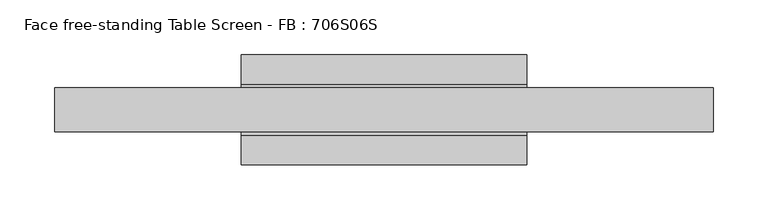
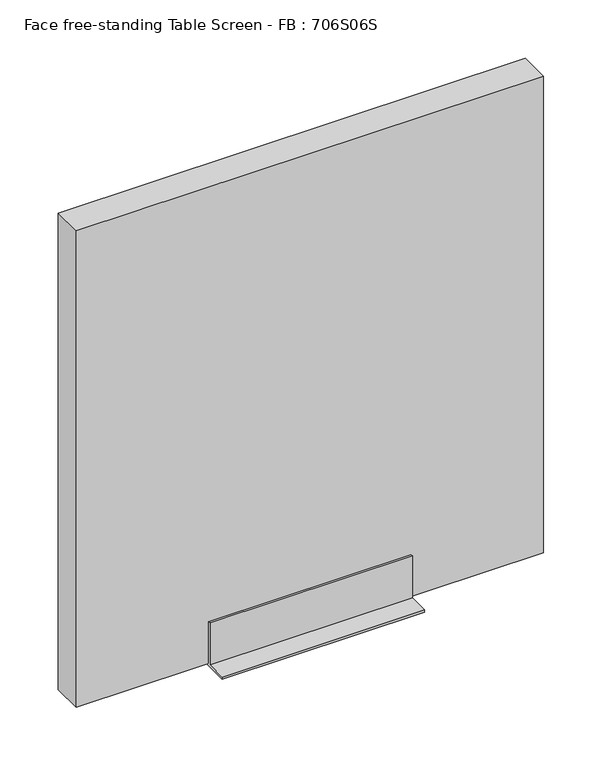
"""IFC4 building model written with IfcOpenShell, lengths in millimetres: furniture geometry, Face free-standing Table Screen - FB : 706S06S."""

from ifc_helpers import new_model, si_unit, frame, origin, place, context, project, spatial, polyline, outline, extrude, source, transform, mapped, element, save


def face_free_standing_table_screen_fb_706s06s_526e518a(model_context):
    return source(origin(), model_context, "Body", "SweptSolid", [
        extrude(outline(polyline([(-50.0, 3.0), (-22.999995, 3.0), (-23.0, 60.0), (-20.0, 60.0), (-20.0, 3.0), (20.0, 3.0), (20.0, 60.0), (23.0, 60.0), (22.999995, 3.0), (50.0, 3.0), (50.0, 0.0), (-50.0, 0.0), (-50.0, 3.0)])), frame((-130.0, 0.0, 0.0), z_axis=(1.0, 0.0, 0.0), x_axis=(0.0, 1.0, 0.0)), (0.0, 0.0, 1.0), 260.0),
        extrude(outline(polyline([(300.0, -20.0), (-300.0, -20.0), (-300.0, 20.0), (300.0, 20.0), (300.0, -20.0)])), frame((0.0, 0.0, 3.0), z_axis=(0.0, 0.0, 1.0), x_axis=(1.0, 0.0, 0.0)), (0.0, 0.0, 1.0), 647.0),
    ])


if __name__ == "__main__":
    model = new_model("IFC4")
    model_context = context("Model", 3, world=origin())
    ifc_project = project(units=[si_unit("LENGTHUNIT", "METRE", prefix="MILLI")], contexts=[model_context])
    site = spatial("IfcSite", under=ifc_project)
    building = spatial("IfcBuilding", under=site)
    placement = place(None, origin())
    face_free_standing_table_screen_fb_706s06s_shape = face_free_standing_table_screen_fb_706s06s_526e518a(model_context)
    element("IfcFurniture", 1, ObjectType="Face free-standing Table Screen - FB : 706S06S", at=placement, inside=building, context=model_context, shape_type="MappedRepresentation", body=[
        mapped(face_free_standing_table_screen_fb_706s06s_shape, transform((0.0, 0.0, 0.0), x_axis=(1.0, 0.0, 0.0), y_axis=(0.0, 1.0, 0.0), z_axis=(0.0, 0.0, 1.0))),
    ])
    save(model, "model.ifc")
